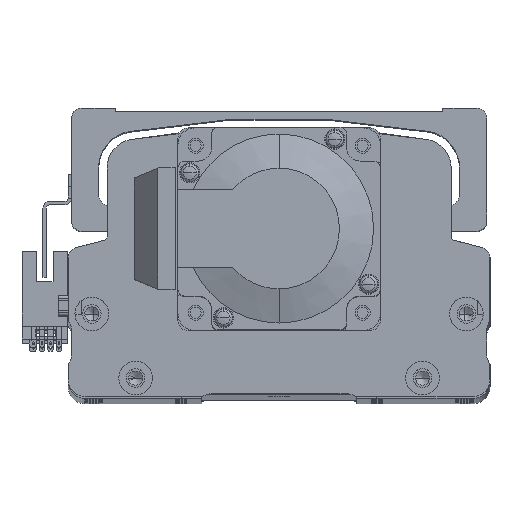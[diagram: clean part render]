
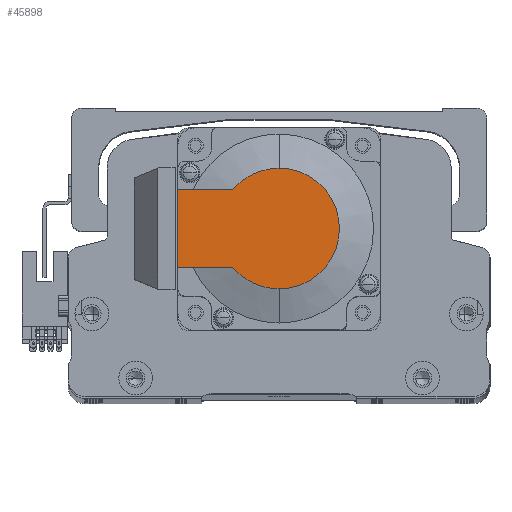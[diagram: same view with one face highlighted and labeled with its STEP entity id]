
A CAD part, top view. The second image highlights one B-rep face of the part: STEP entity #45898.
In plain terms, the highlighted planar face has unit normal (0, 0, 1) as drawn and (-1, 0, 0) by its records, which use the part's own axes.
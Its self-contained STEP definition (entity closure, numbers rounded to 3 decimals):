
#1516 = CIRCLE ( 'NONE', #30345, 17.881 ) ;
#2592 = EDGE_CURVE ( 'NONE', #5466, #51259, #22156, .T. ) ;
#3506 = ORIENTED_EDGE ( 'NONE', *, *, #56030, .T. ) ;
#3676 = LINE ( 'NONE', #55643, #38722 ) ;
#3995 = CARTESIAN_POINT ( 'NONE',  ( -118.5, 30., 25. ) ) ;
#5466 = VERTEX_POINT ( 'NONE', #12171 ) ;
#6134 = DIRECTION ( 'NONE',  ( -1., 0., 0. ) ) ;
#9074 = DIRECTION ( 'NONE',  ( 0., -1., 0. ) ) ;
#10391 = ORIENTED_EDGE ( 'NONE', *, *, #15281, .F. ) ;
#12171 = CARTESIAN_POINT ( 'NONE',  ( -118.5, 0., 17.881 ) ) ;
#13956 = ORIENTED_EDGE ( 'NONE', *, *, #27543, .T. ) ;
#14592 = DIRECTION ( 'NONE',  ( 0., -1., 0. ) ) ;
#15006 = VERTEX_POINT ( 'NONE', #22770 ) ;
#15281 = EDGE_CURVE ( 'NONE', #22477, #15006, #50826, .T. ) ;
#15722 = CARTESIAN_POINT ( 'NONE',  ( -118.5, 30., -11.45 ) ) ;
#15727 = VECTOR ( 'NONE', #31358, 1000. ) ;
#17940 = DIRECTION ( 'NONE',  ( -1., 0., 0. ) ) ;
#22156 = CIRCLE ( 'NONE', #52310, 17.881 ) ;
#22256 = CARTESIAN_POINT ( 'NONE',  ( -118.5, 0., 0. ) ) ;
#22477 = VERTEX_POINT ( 'NONE', #15722 ) ;
#22770 = CARTESIAN_POINT ( 'NONE',  ( -118.5, 30., 11.45 ) ) ;
#22867 = VERTEX_POINT ( 'NONE', #32892 ) ;
#24485 = CARTESIAN_POINT ( 'NONE',  ( -118.5, -8.941, 0. ) ) ;
#24784 = CIRCLE ( 'NONE', #34978, 17.881 ) ;
#26881 = DIRECTION ( 'NONE',  ( 0., 0., -1. ) ) ;
#27543 = EDGE_CURVE ( 'NONE', #22477, #54140, #46123, .T. ) ;
#29089 = DIRECTION ( 'NONE',  ( 0., 0., 1. ) ) ;
#30345 = AXIS2_PLACEMENT_3D ( 'NONE', #45415, #17940, #49952 ) ;
#31358 = DIRECTION ( 'NONE',  ( 0., 0., 1. ) ) ;
#32892 = CARTESIAN_POINT ( 'NONE',  ( -118.5, 0., -17.881 ) ) ;
#33492 = CARTESIAN_POINT ( 'NONE',  ( -118.5, 0., 0. ) ) ;
#33912 = VECTOR ( 'NONE', #9074, 1000. ) ;
#34978 = AXIS2_PLACEMENT_3D ( 'NONE', #22256, #54293, #26881 ) ;
#38106 = DIRECTION ( 'NONE',  ( 0., 0., -1. ) ) ;
#38722 = VECTOR ( 'NONE', #14592, 1000. ) ;
#40603 = ORIENTED_EDGE ( 'NONE', *, *, #2592, .T. ) ;
#41241 = ORIENTED_EDGE ( 'NONE', *, *, #53110, .F. ) ;
#45263 = AXIS2_PLACEMENT_3D ( 'NONE', #24485, #56501, #29089 ) ;
#45415 = CARTESIAN_POINT ( 'NONE',  ( -118.5, 0., 0. ) ) ;
#45461 = FACE_OUTER_BOUND ( 'NONE', #53745, .T. ) ;
#45503 = CARTESIAN_POINT ( 'NONE',  ( -118.5, -8.941, -11.45 ) ) ;
#45898 = ADVANCED_FACE ( 'NONE', ( #45461 ), #46752, .T. ) ;
#46123 = LINE ( 'NONE', #45503, #33912 ) ;
#46752 = PLANE ( 'NONE',  #45263 ) ;
#47526 = CARTESIAN_POINT ( 'NONE',  ( -118.5, 13.735, -11.45 ) ) ;
#49952 = DIRECTION ( 'NONE',  ( 0., 0., -1. ) ) ;
#50826 = LINE ( 'NONE', #3995, #15727 ) ;
#51259 = VERTEX_POINT ( 'NONE', #51423 ) ;
#51423 = CARTESIAN_POINT ( 'NONE',  ( -118.5, 13.735, 11.45 ) ) ;
#52065 = ORIENTED_EDGE ( 'NONE', *, *, #53965, .T. ) ;
#52310 = AXIS2_PLACEMENT_3D ( 'NONE', #33492, #6134, #38106 ) ;
#53110 = EDGE_CURVE ( 'NONE', #15006, #51259, #3676, .T. ) ;
#53745 = EDGE_LOOP ( 'NONE', ( #13956, #3506, #52065, #40603, #41241, #10391 ) ) ;
#53965 = EDGE_CURVE ( 'NONE', #22867, #5466, #24784, .T. ) ;
#54140 = VERTEX_POINT ( 'NONE', #47526 ) ;
#54293 = DIRECTION ( 'NONE',  ( -1., 0., 0. ) ) ;
#55643 = CARTESIAN_POINT ( 'NONE',  ( -118.5, 0., 11.45 ) ) ;
#56030 = EDGE_CURVE ( 'NONE', #54140, #22867, #1516, .T. ) ;
#56501 = DIRECTION ( 'NONE',  ( -1., 0., 0. ) ) ;
